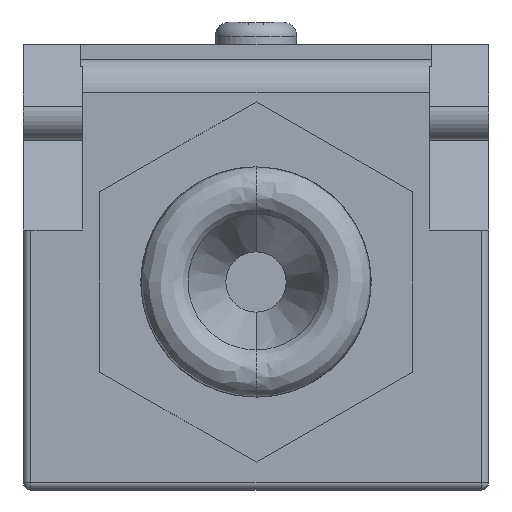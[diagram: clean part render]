
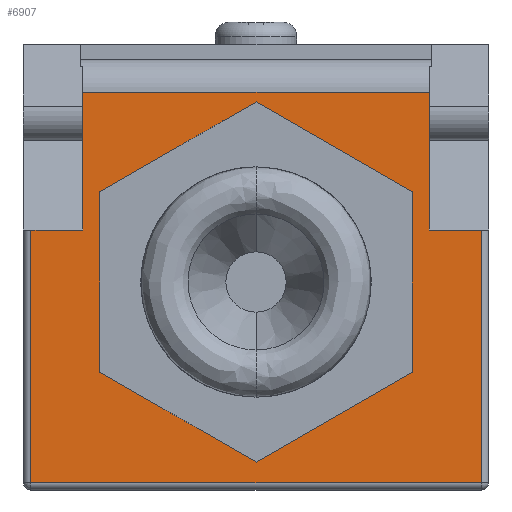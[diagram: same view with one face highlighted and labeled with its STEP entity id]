
A CAD part, front view. The second image highlights one B-rep face of the part: STEP entity #6907.
In plain terms, the highlighted planar face has unit normal (0, -1, 0).
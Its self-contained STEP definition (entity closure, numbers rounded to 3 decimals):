
#767 = PLANE ( 'NONE',  #7868 ) ;
#768 = CARTESIAN_POINT ( 'NONE',  ( -15.65, -30., 19.3 ) ) ;
#769 = DIRECTION ( 'NONE',  ( 0., 1., 0. ) ) ;
#770 = DIRECTION ( 'NONE',  ( 0., 0., 1. ) ) ;
#1532 = VECTOR ( 'NONE', #3314, 1000. ) ;
#1533 = VECTOR ( 'NONE', #3311, 1000. ) ;
#1534 = VECTOR ( 'NONE', #3308, 1000. ) ;
#1535 = VECTOR ( 'NONE', #3305, 1000. ) ;
#1536 = VECTOR ( 'NONE', #3302, 1000. ) ;
#2715 = VERTEX_POINT ( 'NONE', #3072 ) ;
#2716 = VERTEX_POINT ( 'NONE', #3073 ) ;
#2717 = VERTEX_POINT ( 'NONE', #3074 ) ;
#2718 = VERTEX_POINT ( 'NONE', #3075 ) ;
#2719 = VERTEX_POINT ( 'NONE', #3076 ) ;
#2720 = VERTEX_POINT ( 'NONE', #3077 ) ;
#2721 = VERTEX_POINT ( 'NONE', #3078 ) ;
#2722 = VERTEX_POINT ( 'NONE', #3079 ) ;
#2723 = VERTEX_POINT ( 'NONE', #3080 ) ;
#2724 = VERTEX_POINT ( 'NONE', #3081 ) ;
#2725 = VERTEX_POINT ( 'NONE', #3082 ) ;
#2726 = VERTEX_POINT ( 'NONE', #3083 ) ;
#2727 = VERTEX_POINT ( 'NONE', #3084 ) ;
#2728 = VERTEX_POINT ( 'NONE', #3085 ) ;
#3072 = CARTESIAN_POINT ( 'NONE',  ( 10.5, -30., -2.762 ) ) ;
#3073 = CARTESIAN_POINT ( 'NONE',  ( 10.5, -30., 9.362 ) ) ;
#3074 = CARTESIAN_POINT ( 'NONE',  ( 0., -30., 15.424 ) ) ;
#3075 = CARTESIAN_POINT ( 'NONE',  ( -10.5, -30., 9.362 ) ) ;
#3076 = CARTESIAN_POINT ( 'NONE',  ( 0., -30., -8.824 ) ) ;
#3077 = CARTESIAN_POINT ( 'NONE',  ( -10.5, -30., -2.762 ) ) ;
#3078 = CARTESIAN_POINT ( 'NONE',  ( 11.65, -30., 6.8 ) ) ;
#3079 = CARTESIAN_POINT ( 'NONE',  ( 15.15, -30., 6.8 ) ) ;
#3080 = CARTESIAN_POINT ( 'NONE',  ( 15.15, -30., -10.2 ) ) ;
#3081 = CARTESIAN_POINT ( 'NONE',  ( -15.15, -30., -10.2 ) ) ;
#3082 = CARTESIAN_POINT ( 'NONE',  ( -15.15, -30., 6.8 ) ) ;
#3083 = CARTESIAN_POINT ( 'NONE',  ( -11.65, -30., 6.8 ) ) ;
#3084 = CARTESIAN_POINT ( 'NONE',  ( -11.65, -30., 16.071 ) ) ;
#3085 = CARTESIAN_POINT ( 'NONE',  ( 11.65, -30., 16.071 ) ) ;
#3300 = LINE ( 'NONE', #3301, #1536 ) ;
#3301 = CARTESIAN_POINT ( 'NONE',  ( -11.65, -30., 6.8 ) ) ;
#3302 = DIRECTION ( 'NONE',  ( 0., 0., -1. ) ) ;
#3303 = LINE ( 'NONE', #3304, #1535 ) ;
#3304 = CARTESIAN_POINT ( 'NONE',  ( -15.65, -30., 16.071 ) ) ;
#3305 = DIRECTION ( 'NONE',  ( -1., 0., 0. ) ) ;
#3306 = LINE ( 'NONE', #3307, #1534 ) ;
#3307 = CARTESIAN_POINT ( 'NONE',  ( -11.65, -30., 6.8 ) ) ;
#3308 = DIRECTION ( 'NONE',  ( -1., 0., 0. ) ) ;
#3309 = LINE ( 'NONE', #3310, #1533 ) ;
#3310 = CARTESIAN_POINT ( 'NONE',  ( -15.15, -30., 10.7 ) ) ;
#3311 = DIRECTION ( 'NONE',  ( 0., 0., -1. ) ) ;
#3312 = LINE ( 'NONE', #3313, #1532 ) ;
#3313 = CARTESIAN_POINT ( 'NONE',  ( 15.65, -30., -10.2 ) ) ;
#3314 = DIRECTION ( 'NONE',  ( 1., 0., 0. ) ) ;
#4114 = LINE ( 'NONE', #4115, #7568 ) ;
#4115 = CARTESIAN_POINT ( 'NONE',  ( 15.15, -30., 10.7 ) ) ;
#4116 = DIRECTION ( 'NONE',  ( 0., 0., 1. ) ) ;
#4117 = LINE ( 'NONE', #4118, #7567 ) ;
#4118 = CARTESIAN_POINT ( 'NONE',  ( 11.65, -30., 6.8 ) ) ;
#4119 = DIRECTION ( 'NONE',  ( 1., 0., 0. ) ) ;
#4120 = LINE ( 'NONE', #4121, #7565 ) ;
#4121 = CARTESIAN_POINT ( 'NONE',  ( -10.5, -30., 9.362 ) ) ;
#4122 = DIRECTION ( 'NONE',  ( 0., 0., -1. ) ) ;
#4123 = LINE ( 'NONE', #4124, #7563 ) ;
#4124 = CARTESIAN_POINT ( 'NONE',  ( 11.65, -30., 6.8 ) ) ;
#4125 = DIRECTION ( 'NONE',  ( 0., 0., -1. ) ) ;
#4126 = LINE ( 'NONE', #4127, #7549 ) ;
#4127 = CARTESIAN_POINT ( 'NONE',  ( -10.5, -30., -2.762 ) ) ;
#4128 = DIRECTION ( 'NONE',  ( 0.866, 0., -0.5 ) ) ;
#4129 = LINE ( 'NONE', #4130, #7532 ) ;
#4130 = CARTESIAN_POINT ( 'NONE',  ( 0., -30., 15.424 ) ) ;
#4131 = DIRECTION ( 'NONE',  ( -0.866, 0., -0.5 ) ) ;
#4132 = LINE ( 'NONE', #4133, #7529 ) ;
#4133 = CARTESIAN_POINT ( 'NONE',  ( 10.5, -30., 9.362 ) ) ;
#4134 = DIRECTION ( 'NONE',  ( -0.866, 0., 0.5 ) ) ;
#4135 = LINE ( 'NONE', #4136, #7518 ) ;
#4136 = CARTESIAN_POINT ( 'NONE',  ( 10.5, -30., -2.762 ) ) ;
#4137 = DIRECTION ( 'NONE',  ( 0., 0., 1. ) ) ;
#4138 = LINE ( 'NONE', #4139, #7527 ) ;
#4139 = CARTESIAN_POINT ( 'NONE',  ( 0., -30., -8.824 ) ) ;
#4140 = DIRECTION ( 'NONE',  ( 0.866, 0., 0.5 ) ) ;
#5015 = ORIENTED_EDGE ( 'NONE', *, *, #6191, .T. ) ;
#5018 = ORIENTED_EDGE ( 'NONE', *, *, #6192, .T. ) ;
#5019 = ORIENTED_EDGE ( 'NONE', *, *, #6190, .T. ) ;
#5020 = ORIENTED_EDGE ( 'NONE', *, *, #6193, .T. ) ;
#5021 = ORIENTED_EDGE ( 'NONE', *, *, #6194, .T. ) ;
#5022 = ORIENTED_EDGE ( 'NONE', *, *, #6597, .T. ) ;
#5023 = ORIENTED_EDGE ( 'NONE', *, *, #6598, .F. ) ;
#5024 = ORIENTED_EDGE ( 'NONE', *, *, #6600, .F. ) ;
#5025 = ORIENTED_EDGE ( 'NONE', *, *, #6601, .F. ) ;
#5026 = ORIENTED_EDGE ( 'NONE', *, *, #6602, .F. ) ;
#5027 = ORIENTED_EDGE ( 'NONE', *, *, #6599, .F. ) ;
#5028 = ORIENTED_EDGE ( 'NONE', *, *, #6603, .F. ) ;
#5029 = ORIENTED_EDGE ( 'NONE', *, *, #6604, .F. ) ;
#5030 = ORIENTED_EDGE ( 'NONE', *, *, #6605, .F. ) ;
#5375 = EDGE_LOOP ( 'NONE', ( #5025, #5027, #5026, #5028, #5029, #5030 ) ) ;
#5376 = EDGE_LOOP ( 'NONE', ( #5015, #5019, #5018, #5020, #5021, #5022, #5023, #5024 ) ) ;
#6190 = EDGE_CURVE ( 'NONE', #2727, #2726, #3300, .T. ) ;
#6191 = EDGE_CURVE ( 'NONE', #2728, #2727, #3303, .T. ) ;
#6192 = EDGE_CURVE ( 'NONE', #2726, #2725, #3306, .T. ) ;
#6193 = EDGE_CURVE ( 'NONE', #2725, #2724, #3309, .T. ) ;
#6194 = EDGE_CURVE ( 'NONE', #2724, #2723, #3312, .T. ) ;
#6597 = EDGE_CURVE ( 'NONE', #2723, #2722, #4114, .T. ) ;
#6598 = EDGE_CURVE ( 'NONE', #2721, #2722, #4117, .T. ) ;
#6599 = EDGE_CURVE ( 'NONE', #2718, #2720, #4120, .T. ) ;
#6600 = EDGE_CURVE ( 'NONE', #2728, #2721, #4123, .T. ) ;
#6601 = EDGE_CURVE ( 'NONE', #2720, #2719, #4126, .T. ) ;
#6602 = EDGE_CURVE ( 'NONE', #2717, #2718, #4129, .T. ) ;
#6603 = EDGE_CURVE ( 'NONE', #2716, #2717, #4132, .T. ) ;
#6604 = EDGE_CURVE ( 'NONE', #2715, #2716, #4135, .T. ) ;
#6605 = EDGE_CURVE ( 'NONE', #2719, #2715, #4138, .T. ) ;
#6907 = ADVANCED_FACE ( 'NONE', ( #7876, #7875 ), #767, .F. ) ;
#7518 = VECTOR ( 'NONE', #4137, 1000. ) ;
#7527 = VECTOR ( 'NONE', #4140, 1000. ) ;
#7529 = VECTOR ( 'NONE', #4134, 1000. ) ;
#7532 = VECTOR ( 'NONE', #4131, 1000. ) ;
#7549 = VECTOR ( 'NONE', #4128, 1000. ) ;
#7563 = VECTOR ( 'NONE', #4125, 1000. ) ;
#7565 = VECTOR ( 'NONE', #4122, 1000. ) ;
#7567 = VECTOR ( 'NONE', #4119, 1000. ) ;
#7568 = VECTOR ( 'NONE', #4116, 1000. ) ;
#7868 = AXIS2_PLACEMENT_3D ( 'NONE', #768, #769, #770 ) ;
#7875 = FACE_BOUND ( 'NONE', #5375, .T. ) ;
#7876 = FACE_OUTER_BOUND ( 'NONE', #5376, .T. ) ;
